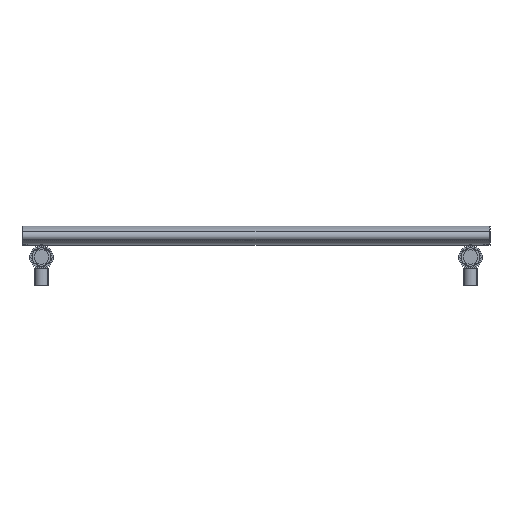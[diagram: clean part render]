
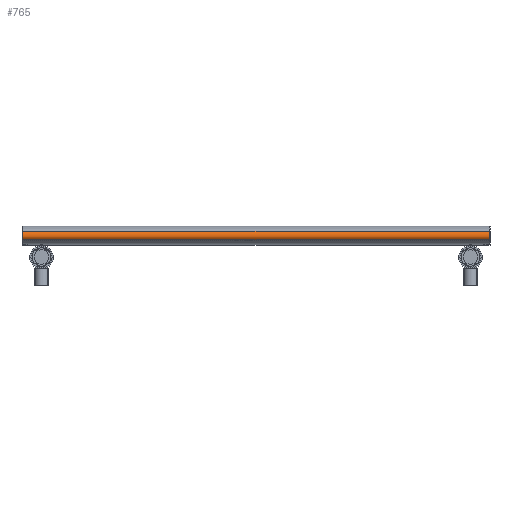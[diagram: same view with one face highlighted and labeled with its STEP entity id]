
A CAD part, front view. The second image highlights one B-rep face of the part: STEP entity #765.
In plain terms, the highlighted cylindrical face has radius 7.112 mm (diameter 14.225 mm), a partial arc.
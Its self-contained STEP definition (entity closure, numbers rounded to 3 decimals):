
#168=LINE('',#1429,#200);
#170=LINE('',#1443,#202);
#200=VECTOR('',#1002,10.);
#202=VECTOR('',#1020,10.);
#310=FACE_OUTER_BOUND('',#359,.T.);
#359=EDGE_LOOP('',(#614,#615,#616,#617));
#409=CIRCLE('',#863,7.112);
#412=CIRCLE('',#869,7.112);
#454=VERTEX_POINT('',#1426);
#455=VERTEX_POINT('',#1428);
#457=VERTEX_POINT('',#1434);
#459=VERTEX_POINT('',#1442);
#513=EDGE_CURVE('',#455,#454,#168,.T.);
#517=EDGE_CURVE('',#457,#454,#409,.T.);
#520=EDGE_CURVE('',#459,#457,#170,.T.);
#522=EDGE_CURVE('',#455,#459,#412,.T.);
#614=ORIENTED_EDGE('',*,*,#513,.T.);
#615=ORIENTED_EDGE('',*,*,#517,.F.);
#616=ORIENTED_EDGE('',*,*,#520,.F.);
#617=ORIENTED_EDGE('',*,*,#522,.F.);
#745=CYLINDRICAL_SURFACE('',#868,7.112);
#765=ADVANCED_FACE('',(#310),#745,.T.);
#863=AXIS2_PLACEMENT_3D('',#1436,#1011,#1012);
#868=AXIS2_PLACEMENT_3D('',#1445,#1023,#1024);
#869=AXIS2_PLACEMENT_3D('',#1446,#1025,#1026);
#1002=DIRECTION('',(0.,0.,1.));
#1011=DIRECTION('center_axis',(0.,0.,1.));
#1012=DIRECTION('ref_axis',(-0.552,0.834,0.));
#1020=DIRECTION('',(0.,0.,1.));
#1023=DIRECTION('center_axis',(0.,0.,1.));
#1024=DIRECTION('ref_axis',(-0.552,0.834,0.));
#1025=DIRECTION('center_axis',(0.,0.,-1.));
#1026=DIRECTION('ref_axis',(-0.552,0.834,0.));
#1426=CARTESIAN_POINT('',(-21.816,-18.429,300.));
#1428=CARTESIAN_POINT('',(-21.816,-18.429,-300.));
#1429=CARTESIAN_POINT('',(-21.816,-18.429,0.));
#1434=CARTESIAN_POINT('',(-21.816,-6.571,300.));
#1436=CARTESIAN_POINT('Origin',(-17.888,-12.5,300.));
#1442=CARTESIAN_POINT('',(-21.816,-6.571,-300.));
#1443=CARTESIAN_POINT('',(-21.816,-6.571,0.));
#1445=CARTESIAN_POINT('Origin',(-17.888,-12.5,0.));
#1446=CARTESIAN_POINT('Origin',(-17.888,-12.5,-300.));
